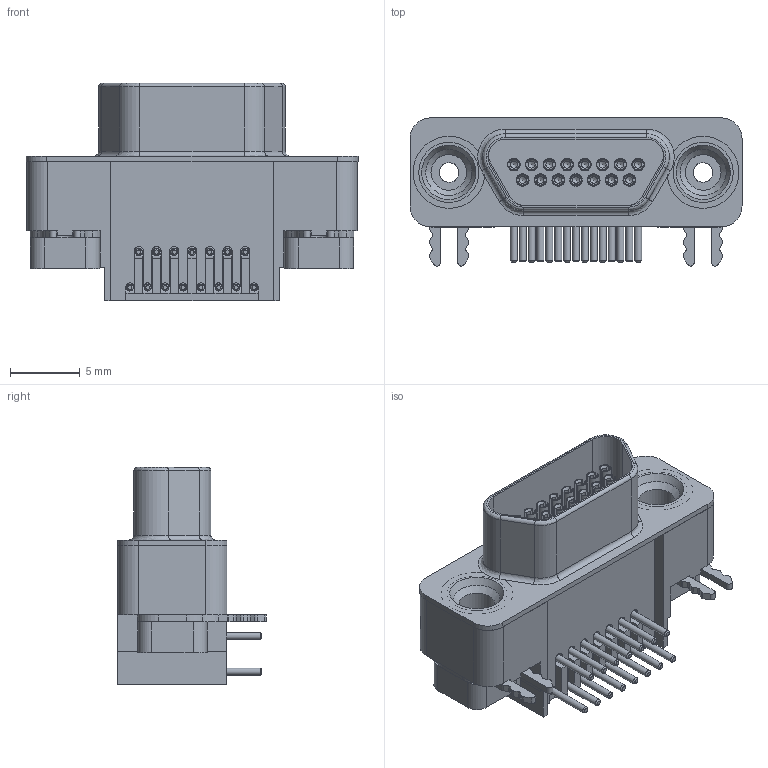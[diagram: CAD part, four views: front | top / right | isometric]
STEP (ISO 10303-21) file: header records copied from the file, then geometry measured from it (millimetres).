
FILE_DESCRIPTION (( 'STEP AP203' ), '1' );
FILE_NAME ('581-M15-213L461.STEP', '2020-07-06T18:50:13', ( '' ), ( '' ), 'SwSTEP 2.0', 'SolidWorks 2020', '' );
FILE_SCHEMA (( 'CONFIG_CONTROL_DESIGN' ));
Length unit declared in the file: millimetre
Products named in the file (1): 581-M15-213L461
Bounding box: 23.75 x 10.6 x 15.55 mm (x, y, z)
Volume: 1485.1 mm3; surface area: 3717 mm2
Topology: 22 solids, 22 shells, 789 faces, 2119 edges, 1395 vertices
Faces by surface type: plane 436, cylinder 229, cone 74, bspline 50
Full cylindrical faces by diameter (mm): 0.5 x45, 0.85 x15, 0.9 x15, 1 x30, 1.42 x10, 2.55 x2, 3.95 x2, 4 x4
Entity records: 26441 total; most frequent: CARTESIAN_POINT 8119, DIRECTION 3720, ORIENTED_EDGE 3630, EDGE_CURVE 1815, AXIS2_PLACEMENT_3D 1352, VERTEX_POINT 1275, EDGE_LOOP 1026, VECTOR 1016
